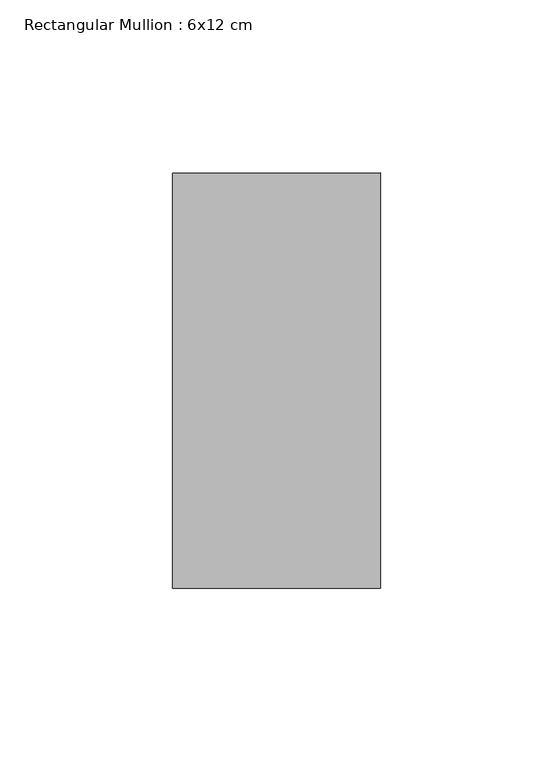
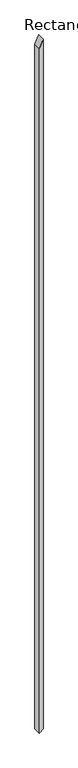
"""IFC4 building model written with IfcOpenShell, lengths in millimetres: member geometry, Rectangular Mullion : 6x12 cm."""

import ifcopenshell
import ifcopenshell.guid

model = None  # the IFC model being written
_history = None  # IfcOwnerHistory: only IFC2X3 demands one
_inside = {}  # id of a spatial element -> (the spatial element, [elements in it])
_under = {}  # id of a project, library or spatial element -> (it, [spatial elements below it])
_declared = {}  # id of a project -> (the project, [libraries it declares])
_typed = {}  # id of a type object -> (the type object, [elements of that type])
_made_of = {}  # id of a material, layer set ... -> (it, [elements and type objects made of it])


def new_model(schema):
    """Start an empty IFC model of exactly this schema.

    Asked for "IFC4X3", IfcOpenShell would pick the latest addendum, in which some entities
    have other attributes; the version numbers below select the first issue.
    IFC2X3 requires an IfcOwnerHistory on every rooted entity: one is made here for all.
    """
    global model, _history
    if schema == "IFC4X3":
        model = ifcopenshell.file(schema_version=(4, 3, 0, 0))
    else:
        model = ifcopenshell.file(schema=schema)
    _inside.clear()
    _under.clear()
    _declared.clear()
    _typed.clear()
    _made_of.clear()
    _history = None
    if model.schema == "IFC2X3":
        org = make("IfcOrganization", Name="unknown")
        user = make(
            "IfcPersonAndOrganization",
            ThePerson=make("IfcPerson", FamilyName="unknown"),
            TheOrganization=org,
        )
        app = make(
            "IfcApplication",
            ApplicationDeveloper=org,
            Version="unknown",
            ApplicationFullName="unknown",
            ApplicationIdentifier="unknown",
        )
        _history = make(
            "IfcOwnerHistory",
            OwningUser=user,
            OwningApplication=app,
            ChangeAction="ADDED",
            CreationDate=0,
        )
    return model


def make(cls, **values):
    """One entity of the class cls with the attributes given. An attribute that is None is left unset."""
    return model.create_entity(
        cls, **{name: value for name, value in values.items() if value is not None}
    )


def rooted(cls, **values):
    """An entity with a GlobalId (a new one), such as an element, a storey or a relation."""
    return make(cls, GlobalId=ifcopenshell.guid.new(), OwnerHistory=_history, **values)


def si_unit(unit_type, name, prefix=None):
    """IfcSIUnit, for example si_unit("LENGTHUNIT", "METRE", prefix="MILLI")."""
    return make("IfcSIUnit", UnitType=unit_type, Prefix=prefix, Name=name)


def assignment(units):
    """IfcUnitAssignment: the units of a project."""
    return None if units is None else make("IfcUnitAssignment", Units=units)


def point(xyz):
    """IfcCartesianPoint."""
    return None if xyz is None else make("IfcCartesianPoint", Coordinates=xyz)


def direction(xyz):
    """IfcDirection."""
    return None if xyz is None else make("IfcDirection", DirectionRatios=xyz)


def frame(location, z_axis=None, x_axis=None):
    """IfcAxis2Placement3D, a coordinate frame: its origin and axes. An axis left out is left unset."""
    return make(
        "IfcAxis2Placement3D",
        Location=point(location),
        Axis=direction(z_axis),
        RefDirection=direction(x_axis),
    )


def origin():
    """The frame at (0, 0, 0) with its axes left unset."""
    return frame((0.0, 0.0, 0.0))


def place(relative_to, where):
    """IfcLocalPlacement: puts the frame where relative to a parent placement (None: the world)."""
    return make(
        "IfcLocalPlacement", PlacementRelTo=relative_to, RelativePlacement=where
    )


def context(
    kind, dimensions, precision=None, world=None, true_north=None, identifier=None
):
    """IfcGeometricRepresentationContext, for example the 3D "Model" context."""
    return make(
        "IfcGeometricRepresentationContext",
        ContextIdentifier=identifier,
        ContextType=kind,
        CoordinateSpaceDimension=dimensions,
        Precision=precision,
        WorldCoordinateSystem=world,
        TrueNorth=true_north,
    )


def project(units=None, contexts=None):
    """IfcProject with its units and contexts."""
    return rooted(
        "IfcProject",
        Name="project",
        RepresentationContexts=contexts,
        UnitsInContext=assignment(units),
    )


def spatial(cls, under=None, at=None, **own):
    """A site, building, storey or space (cls), placed at a placement, below another one or the project."""
    s = rooted(cls, ObjectPlacement=at, **own)
    if under is not None:
        _under.setdefault(under.id(), (under, []))[1].append(s)
    return s


def polyline(points):
    """IfcPolyline through the points."""
    return make("IfcPolyline", Points=[point(p) for p in points])


def outline(outer, holes=None, kind="AREA"):
    """IfcArbitraryClosedProfileDef: a profile drawn as a closed curve; with holes, ...WithVoids."""
    if holes is None:
        return make("IfcArbitraryClosedProfileDef", ProfileType=kind, OuterCurve=outer)
    return make(
        "IfcArbitraryProfileDefWithVoids",
        ProfileType=kind,
        OuterCurve=outer,
        InnerCurves=holes,
    )


def extrude(swept, where, along, depth):
    """IfcExtrudedAreaSolid: the profile swept, set in the frame where, extruded along a direction by depth."""
    return make(
        "IfcExtrudedAreaSolid",
        SweptArea=swept,
        Position=where,
        ExtrudedDirection=direction(along),
        Depth=depth,
    )


def shape(context_of_items, identifier, shape_type, items):
    """IfcShapeRepresentation: the items that make up one representation, for example the "Body"."""
    return make(
        "IfcShapeRepresentation",
        ContextOfItems=context_of_items,
        RepresentationIdentifier=identifier,
        RepresentationType=shape_type,
        Items=items,
    )


def source(mapping_origin, context_of_items, identifier, shape_type, items):
    """IfcRepresentationMap: a shape defined once, which mapped items show again and again."""
    return make(
        "IfcRepresentationMap",
        MappingOrigin=mapping_origin,
        MappedRepresentation=shape(context_of_items, identifier, shape_type, items),
    )


def transform(
    local_origin,
    x_axis=None,
    y_axis=None,
    z_axis=None,
    scale=None,
    scale2=None,
    scale3=None,
    uniform=True,
):
    """IfcCartesianTransformationOperator3D, or its non-uniform kind. x_axis, y_axis, z_axis: its Axis1, 2, 3."""
    if uniform:
        return make(
            "IfcCartesianTransformationOperator3D",
            Axis1=direction(x_axis),
            Axis2=direction(y_axis),
            LocalOrigin=point(local_origin),
            Scale=scale,
            Axis3=direction(z_axis),
        )
    return make(
        "IfcCartesianTransformationOperator3DnonUniform",
        Axis1=direction(x_axis),
        Axis2=direction(y_axis),
        LocalOrigin=point(local_origin),
        Scale=scale,
        Axis3=direction(z_axis),
        Scale2=scale2,
        Scale3=scale3,
    )


def mapped(mapping_source, mapping_target):
    """IfcMappedItem: shows the shape of a source again, moved by a transform."""
    return make(
        "IfcMappedItem", MappingSource=mapping_source, MappingTarget=mapping_target
    )


def made_of(thing, what):
    """Note that an element or type object is made of a material, layer set ...; save() writes the relation."""
    if what is not None:
        _made_of.setdefault(what.id(), (what, []))[1].append(thing)
    return thing


def element(
    cls,
    number,
    at=None,
    inside=None,
    cuts=None,
    type_object=None,
    material=None,
    context=None,
    identifier="Body",
    shape_type=None,
    held_by="IfcProductDefinitionShape",
    body=None,
    shapes=None,
    **own,
):
    """One element of the class cls, such as IfcWall. Its Tag is "e" and its number.

    at: its placement. inside: the storey or other place that contains it. cuts: it is an
    opening in that element (IfcRelVoidsElement). A single representation is given by context,
    identifier, shape_type and body (its items); several are given by shapes. held_by: the class
    of the entity that holds the representations. save() writes the other relations.
    """
    e = rooted(cls, Tag="e%d" % number, ObjectPlacement=at, **own)
    if body is not None:
        shapes = [shape(context, identifier, shape_type, body)]
    if shapes is not None:
        e.Representation = make(held_by, Representations=shapes)
    if inside is not None:
        _inside.setdefault(inside.id(), (inside, []))[1].append(e)
    if cuts is not None:
        rooted(
            "IfcRelVoidsElement", RelatingBuildingElement=cuts, RelatedOpeningElement=e
        )
    if type_object is not None:
        _typed.setdefault(type_object.id(), (type_object, []))[1].append(e)
    return made_of(e, material)


def aggregate(whole, parts):
    """IfcRelAggregates: a whole, such as a stair, and the parts it consists of."""
    return rooted("IfcRelAggregates", RelatingObject=whole, RelatedObjects=parts)


def save(model, path):
    """Write the relations noted so far, then the file.

    IfcRelAggregates (storeys below a building ...), IfcRelContainedInSpatialStructure (elements
    in a storey), IfcRelDefinesByType, IfcRelAssociatesMaterial and IfcRelDeclares: one each for
    every whole, place, type object, material and project.
    """
    for whole, parts in _under.values():
        aggregate(whole, parts)
    for where, things in _inside.values():
        rooted(
            "IfcRelContainedInSpatialStructure",
            RelatedElements=things,
            RelatingStructure=where,
        )
    for kind, things in _typed.values():
        rooted("IfcRelDefinesByType", RelatedObjects=things, RelatingType=kind)
    for what, things in _made_of.values():
        rooted("IfcRelAssociatesMaterial", RelatedObjects=things, RelatingMaterial=what)
    for by, libraries in _declared.values():
        rooted("IfcRelDeclares", RelatingContext=by, RelatedDefinitions=libraries)
    model.write(path)


def rectangular_mullion_6x12_cm_79a7111f(model_context):
    return source(origin(), model_context, "Body", "SweptSolid", [
        extrude(outline(polyline([(27.6547437, 30.0), (-109.2582939, -30.0), (-11552.8666423, -30.0), (-11501.9819138, 30.0), (27.6547437, 30.0)])), frame((0.0, 85.0, 0.0), z_axis=(0.0, 1.0, 0.0), x_axis=(0.0, 0.0, 1.0)), (0.0, 0.0, 1.0), 120.0),
    ])


if __name__ == "__main__":
    model = new_model("IFC4")
    model_context = context("Model", 3, world=origin())
    ifc_project = project(units=[si_unit("LENGTHUNIT", "METRE", prefix="MILLI")], contexts=[model_context])
    site = spatial("IfcSite", under=ifc_project)
    building = spatial("IfcBuilding", under=site)
    placement = place(None, origin())
    rectangular_mullion_6x12_cm_shape = rectangular_mullion_6x12_cm_79a7111f(model_context)
    element("IfcMember", 1, ObjectType="Rectangular Mullion : 6x12 cm", at=placement, inside=building, context=model_context, shape_type="MappedRepresentation", body=[
        mapped(rectangular_mullion_6x12_cm_shape, transform((0.0, 0.0, 0.0), x_axis=(1.0, 0.0, 0.0), y_axis=(0.0, 1.0, 0.0), z_axis=(0.0, 0.0, 1.0))),
    ])
    save(model, "model.ifc")
